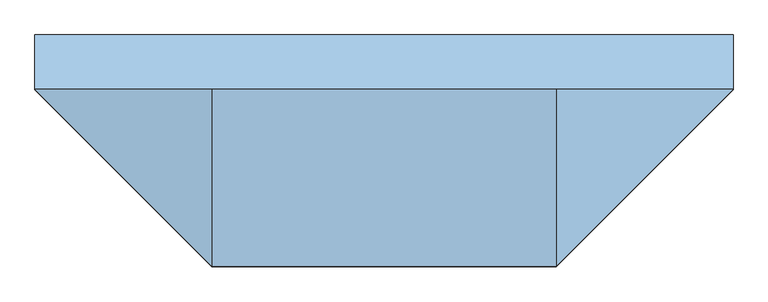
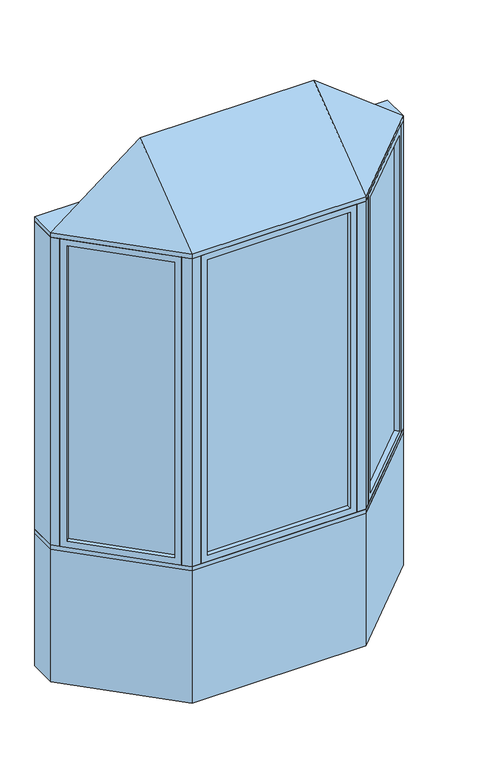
"""IFC4 building model written with IfcOpenShell, lengths in millimetres: window geometry, Pollard_Windows_Tudor Casement Bows and Bays : AML-BAY 45 AFR0618-08-600."""

from ifc_helpers import new_model, si_unit, frame, origin, origin_with_axes, place, context, project, spatial, polyline, outline, extrude, faceted_brep, source, transform, mapped, element, save


def window_0206066c(model_context):
    return source(origin(), model_context, "Body", "SolidModel", [
        extrude(outline(polyline([(910.5964271, -104.763169), (514.974814, -500.3847822), (511.3827115, -496.7926797), (907.0043247, -101.1710666), (910.5964271, -104.763169)])), frame((0.0, 0.0, 823.1628), z_axis=(0.0, 0.0, 1.0), x_axis=(1.0, 0.0, 0.0)), (0.0, 0.0, 1.0), 1753.6704),
        faceted_brep([(901.616171, -113.7434252, 835.8628), (919.5766833, -131.7039374, 835.8628), (919.5766833, -131.7039374, 2564.1332), (901.616171, -113.7434252, 2564.1332), (907.0043247, -101.1710666, 823.1628), (910.5964271, -104.763169, 823.1628), (910.5964271, -104.763169, 2576.8332), (907.0043247, -101.1710666, 2576.8332), (880.0635563, -92.1908105, 835.8628), (898.0240686, -110.1513227, 835.8628), (898.0240686, -110.1513227, 2564.1332), (880.0635563, -92.1908105, 2564.1332), (944.9369265, -106.3436941, 799.998), (905.4237996, -66.8305672, 799.998), (905.4237996, -66.8305672, 2599.998), (944.9369265, -106.3436941, 2599.998), (541.9155823, -509.3650383, 2564.1332), (523.9550701, -491.4045261, 2564.1332), (514.974814, -500.3847822, 2576.8332), (511.3827115, -496.7926797, 2576.8332), (520.3629677, -487.8124236, 2564.1332), (502.4024554, -469.8519114, 2564.1332), (477.0422121, -495.2121547, 2599.998), (516.5553391, -534.7252816, 2599.998), (541.9155823, -509.3650383, 835.8628), (523.9550701, -491.4045261, 835.8628), (514.974814, -500.3847822, 823.1628), (511.3827115, -496.7926797, 823.1628), (520.3629677, -487.8124236, 835.8628), (502.4024554, -469.8519114, 835.8628), (477.0422121, -495.2121547, 799.998), (516.5553391, -534.7252816, 799.998)], [[[0, 1, 2, 3]], [[4, 5, 6, 7]], [[8, 9, 10, 11]], [[12, 13, 14, 15]], [[3, 2, 16, 17]], [[7, 6, 18, 19]], [[11, 10, 20, 21]], [[15, 14, 22, 23]], [[17, 16, 24, 25]], [[19, 18, 26, 27]], [[21, 20, 28, 29]], [[23, 22, 30, 31]], [[25, 24, 1, 0]], [[5, 26, 18, 6], [3, 17, 25, 0]], [[27, 26, 5, 4]], [[7, 19, 27, 4], [9, 28, 20, 10]], [[29, 28, 9, 8]], [[13, 30, 22, 14], [11, 21, 29, 8]], [[31, 30, 13, 12]], [[15, 23, 31, 12], [1, 24, 16, 2]]]),
        extrude(outline(polyline([(-514.974814, -500.3847822), (-910.5964271, -104.763169), (-907.0043247, -101.1710666), (-511.3827115, -496.7926797), (-514.974814, -500.3847822)])), frame((0.0, 0.0, 823.1628), z_axis=(0.0, 0.0, 1.0), x_axis=(1.0, 0.0, 0.0)), (0.0, 0.0, 1.0), 1753.6704),
        faceted_brep([(-520.3629677, -487.8124236, 2564.1332), (-502.4024554, -469.8519114, 2564.1332), (-502.4024554, -469.8519114, 835.8628), (-520.3629677, -487.8124236, 835.8628), (-514.974814, -500.3847822, 2576.8332), (-511.3827115, -496.7926797, 2576.8332), (-511.3827115, -496.7926797, 823.1628), (-514.974814, -500.3847822, 823.1628), (-541.9155823, -509.3650383, 2564.1332), (-523.9550701, -491.4045261, 2564.1332), (-523.9550701, -491.4045261, 835.8628), (-541.9155823, -509.3650383, 835.8628), (-477.0422121, -495.2121547, 2599.998), (-516.5553391, -534.7252816, 2599.998), (-516.5553391, -534.7252816, 799.998), (-477.0422121, -495.2121547, 799.998), (-880.0635563, -92.1908105, 835.8628), (-898.0240686, -110.1513227, 835.8628), (-907.0043247, -101.1710666, 823.1628), (-910.5964271, -104.763169, 823.1628), (-901.616171, -113.7434252, 835.8628), (-919.5766833, -131.7039374, 835.8628), (-944.9369265, -106.3436941, 799.998), (-905.4237996, -66.8305672, 799.998), (-880.0635563, -92.1908105, 2564.1332), (-898.0240686, -110.1513227, 2564.1332), (-907.0043247, -101.1710666, 2576.8332), (-910.5964271, -104.763169, 2576.8332), (-901.616171, -113.7434252, 2564.1332), (-919.5766833, -131.7039374, 2564.1332), (-944.9369265, -106.3436941, 2599.998), (-905.4237996, -66.8305672, 2599.998)], [[[0, 1, 2, 3]], [[4, 5, 6, 7]], [[8, 9, 10, 11]], [[12, 13, 14, 15]], [[3, 2, 16, 17]], [[7, 6, 18, 19]], [[11, 10, 20, 21]], [[15, 14, 22, 23]], [[17, 16, 24, 25]], [[19, 18, 26, 27]], [[21, 20, 28, 29]], [[23, 22, 30, 31]], [[15, 23, 31, 12], [1, 24, 16, 2]], [[25, 24, 1, 0]], [[5, 26, 18, 6], [3, 17, 25, 0]], [[27, 26, 5, 4]], [[7, 19, 27, 4], [9, 28, 20, 10]], [[29, 28, 9, 8]], [[13, 30, 22, 14], [11, 21, 29, 8]], [[31, 30, 13, 12]]]),
        extrude(outline(polyline([(408.0352, -544.6806207), (-408.0352, -544.6806207), (-408.0352, -539.6006207), (408.0352, -539.6006207), (408.0352, -544.6806207)])), frame((0.0, 0.0, 823.1628), z_axis=(0.0, 0.0, 1.0), x_axis=(1.0, 0.0, 0.0)), (0.0, 0.0, 1.0), 1753.6704),
        faceted_brep([(395.3352, -544.6806207, 835.8628), (395.3352, -570.0806207, 835.8628), (395.3352, -570.0806207, 2564.1332), (395.3352, -544.6806207, 2564.1332), (408.0352, -539.6006207, 823.1628), (408.0352, -544.6806207, 823.1628), (408.0352, -544.6806207, 2576.8332), (408.0352, -539.6006207, 2576.8332), (395.3352, -514.2006207, 835.8628), (395.3352, -539.6006207, 835.8628), (395.3352, -539.6006207, 2564.1332), (395.3352, -514.2006207, 2564.1332), (431.2, -570.0806207, 799.998), (431.2, -514.2006207, 799.998), (431.2, -514.2006207, 2599.998), (431.2, -570.0806207, 2599.998), (-395.3352, -570.0806207, 2564.1332), (-395.3352, -544.6806207, 2564.1332), (-408.0352, -544.6806207, 2576.8332), (-408.0352, -539.6006207, 2576.8332), (-395.3352, -539.6006207, 2564.1332), (-395.3352, -514.2006207, 2564.1332), (-431.2, -514.2006207, 2599.998), (-431.2, -570.0806207, 2599.998), (-395.3352, -570.0806207, 835.8628), (-395.3352, -544.6806207, 835.8628), (-408.0352, -544.6806207, 823.1628), (-408.0352, -539.6006207, 823.1628), (-395.3352, -539.6006207, 835.8628), (-395.3352, -514.2006207, 835.8628), (-431.2, -514.2006207, 799.998), (-431.2, -570.0806207, 799.998)], [[[0, 1, 2, 3]], [[4, 5, 6, 7]], [[8, 9, 10, 11]], [[12, 13, 14, 15]], [[3, 2, 16, 17]], [[7, 6, 18, 19]], [[11, 10, 20, 21]], [[15, 14, 22, 23]], [[17, 16, 24, 25]], [[19, 18, 26, 27]], [[21, 20, 28, 29]], [[23, 22, 30, 31]], [[15, 23, 31, 12], [1, 24, 16, 2]], [[25, 24, 1, 0]], [[5, 26, 18, 6], [3, 17, 25, 0]], [[27, 26, 5, 4]], [[7, 19, 27, 4], [9, 28, 20, 10]], [[29, 28, 9, 8]], [[13, 30, 22, 14], [11, 21, 29, 8]], [[31, 30, 13, 12]]]),
        faceted_brep([(976.5, -74.7806207, 2625.398), (481.2, -570.0806207, 2625.398), (-481.2, -570.0806207, 2625.398), (-976.5, -74.7806207, 2625.398), (-481.2, -74.7806207, 3006.398), (481.2, -74.7806207, 3006.398)], [[[0, 1, 2, 3]], [[3, 2, 4]], [[2, 1, 5, 4]], [[1, 0, 5]], [[0, 3, 4, 5]]]),
        extrude(outline(polyline([(-976.5, 77.6193793), (976.5, 77.6193793), (976.5, -74.7806207), (481.2, -570.0806207), (-481.2, -570.0806207), (-976.5, -74.7806207), (-976.5, 77.6193793)])), frame((0.0, 0.0, 2599.998), z_axis=(0.0, 0.0, 1.0), x_axis=(1.0, 0.0, 0.0)), (0.0, 0.0, 1.0), 25.4),
        extrude(outline(polyline([(-976.5, -74.7806207), (-976.5, 77.6193793), (-913.3738531, 77.6193793), (-913.3738531, -74.7806207), (-944.9369265, -106.3436941), (-976.5, -74.7806207)])), frame((0.0, 0.0, 799.998), z_axis=(0.0, 0.0, 1.0), x_axis=(1.0, 0.0, 0.0)), (0.0, 0.0, 1.0), 1800.0),
        extrude(outline(polyline([(976.5, 77.6193793), (976.5, -74.7806207), (944.9369265, -106.3436941), (913.3738531, -74.7806207), (913.3738531, 77.6193793), (976.5, 77.6193793)])), frame((0.0, 0.0, 799.998), z_axis=(0.0, 0.0, 1.0), x_axis=(1.0, 0.0, 0.0)), (0.0, 0.0, 1.0), 1800.0),
        extrude(outline(polyline([(481.2, -570.0806207), (431.2, -570.0806207), (431.2, -520.0806207), (460.4893219, -520.0806207), (481.2, -499.3699425), (516.5553391, -534.7252816), (481.2, -570.0806207)])), frame((0.0, 0.0, 799.998), z_axis=(0.0, 0.0, 1.0), x_axis=(1.0, 0.0, 0.0)), (0.0, 0.0, 1.0), 1800.0),
        extrude(outline(polyline([(-481.2, -570.0806207), (-516.5553391, -534.7252816), (-481.2, -499.3699425), (-460.4893219, -520.0806207), (-431.2, -520.0806207), (-431.2, -570.0806207), (-481.2, -570.0806207)])), frame((0.0, 0.0, 799.998), z_axis=(0.0, 0.0, 1.0), x_axis=(1.0, 0.0, 0.0)), (0.0, 0.0, 1.0), 1800.0),
        extrude(outline(polyline([(-481.2, -570.0806207), (-976.5, -74.7806207), (-976.5, 77.6193793), (-913.3738531, 77.6193793), (-418.0738531, -417.6806207), (418.0738531, -417.6806207), (913.3738531, 77.6193793), (976.5, 77.6193793), (976.5, -74.7806207), (481.2, -570.0806207), (-481.2, -570.0806207)])), frame((0.0, 0.0, 774.598), z_axis=(0.0, 0.0, 1.0), x_axis=(1.0, 0.0, 0.0)), (0.0, 0.0, 1.0), 25.4),
        extrude(outline(polyline([(-976.5, -74.7806207), (-976.5, 77.6193793), (-913.3738531, 77.6193793), (-418.0738531, -417.6806207), (418.0738531, -417.6806207), (913.3738531, 77.6193793), (976.5, 77.6193793), (976.5, -74.7806207), (481.2, -570.0806207), (-481.2, -570.0806207), (-976.5, -74.7806207)])), origin_with_axes(), (0.0, 0.0, 1.0), 774.598),
    ])


if __name__ == "__main__":
    model = new_model("IFC4")
    model_context = context("Model", 3, world=origin())
    ifc_project = project(units=[si_unit("LENGTHUNIT", "METRE", prefix="MILLI")], contexts=[model_context])
    site = spatial("IfcSite", under=ifc_project)
    building = spatial("IfcBuilding", under=site)
    placement = place(None, origin())
    window_shape = window_0206066c(model_context)
    element("IfcWindow", 1, ObjectType="Pollard_Windows_Tudor Casement Bows and Bays : AML-BAY 45 AFR0618-08-600", at=placement, inside=building, context=model_context, shape_type="MappedRepresentation", body=[
        mapped(window_shape, transform((0.0, 0.0, 0.0), x_axis=(1.0, 0.0, 0.0), y_axis=(0.0, 1.0, 0.0), z_axis=(0.0, 0.0, 1.0))),
    ])
    save(model, "model.ifc")
